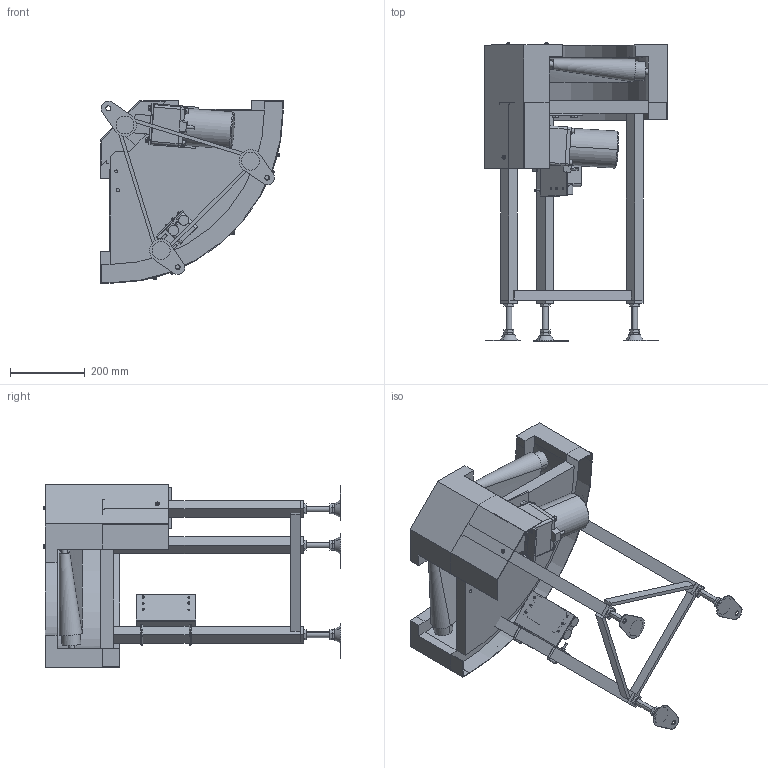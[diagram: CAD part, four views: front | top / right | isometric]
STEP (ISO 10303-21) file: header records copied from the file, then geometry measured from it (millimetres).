
FILE_DESCRIPTION( (''), '2;1');
FILE_NAME ('FBC-309-200-90°-R-K-60.stp','2025-01-29T13:56:03',(''),(''),'spGate 20.6.2 (****-****-****-****)','','');
FILE_SCHEMA (('AUTOMOTIVE_DESIGN'));
Length unit declared in the file: millimetre
Products named in the file (41): NewModel; TEMP_X_T-prt0; TEMP_X_T-prt1; TEMP_X_T-prt2; TEMP_X_T-prt3; TEMP_X_T-prt4; TEMP_X_T-prt5; TEMP_X_T-prt6; TEMP_X_T-prt7; TEMP_X_T-prt8; TEMP_X_T-prt9; TEMP_X_T-prt10; TEMP_X_T-prt11; TEMP_X_T-prt12; TEMP_X_T-prt13; TEMP_X_T-prt14; TEMP_X_T-prt15; TEMP_X_T-prt16; TEMP_X_T-prt17; TEMP_X_T-prt18; TEMP_X_T-prt19; TEMP_X_T-prt20; TEMP_X_T-prt21; TEMP_X_T-prt22; TEMP_X_T-prt23; TEMP_X_T-prt24; TEMP_X_T-prt25; TEMP_X_T-prt26; TEMP_X_T-prt27; TEMP_X_T-prt28; TEMP_X_T-prt29; TEMP_X_T-prt30; TEMP_X_T-prt31; TEMP_X_T-prt32; TEMP_X_T-prt33; TEMP_X_T-prt34; TEMP_X_T-prt35; TEMP_X_T-prt36; TEMP_X_T-prt37; TEMP_X_T-prt38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
Assembly tree (40 placements, depth 2):
  NewModel
    TEMP_X_T-prt0
    TEMP_X_T-prt1
    TEMP_X_T-prt2
    TEMP_X_T-prt3
    TEMP_X_T-prt4
    TEMP_X_T-prt5
    TEMP_X_T-prt6
    TEMP_X_T-prt7
    TEMP_X_T-prt8
    TEMP_X_T-prt9
    TEMP_X_T-prt10
    TEMP_X_T-prt11
    TEMP_X_T-prt12
    TEMP_X_T-prt13
    TEMP_X_T-prt14
    TEMP_X_T-prt15
    TEMP_X_T-prt16
    TEMP_X_T-prt17
    TEMP_X_T-prt18
    TEMP_X_T-prt19
    TEMP_X_T-prt20
    TEMP_X_T-prt21
    TEMP_X_T-prt22
    TEMP_X_T-prt23
    TEMP_X_T-prt24
    TEMP_X_T-prt25
    TEMP_X_T-prt26
    TEMP_X_T-prt27
    TEMP_X_T-prt28
    TEMP_X_T-prt29
    TEMP_X_T-prt30
    TEMP_X_T-prt31
    TEMP_X_T-prt32
    TEMP_X_T-prt33
    TEMP_X_T-prt34
    TEMP_X_T-prt35
    TEMP_X_T-prt36
    TEMP_X_T-prt37
    TEMP_X_T-prt38
    TEMP_X_T-prt39
Bounding box: 488 x 796.1 x 488 mm (x, y, z)
Volume: 23149702.4 mm3; surface area: 2120964.5 mm2
Topology: 40 solids, 40 shells, 1094 faces, 2570 edges, 1650 vertices
Faces by surface type: plane 624, cylinder 333, bspline 137
Entity records: 57534 total; most frequent: CARTESIAN_POINT 10839, ORIENTED_EDGE 5124, DIRECTION 4945, COLOUR_RGB 3696, PRESENTATION_STYLE_ASSIGNMENT 3696, STYLED_ITEM 3696, EDGE_CURVE 2562, DRAUGHTING_PRE_DEFINED_CURVE_FONT 2562
